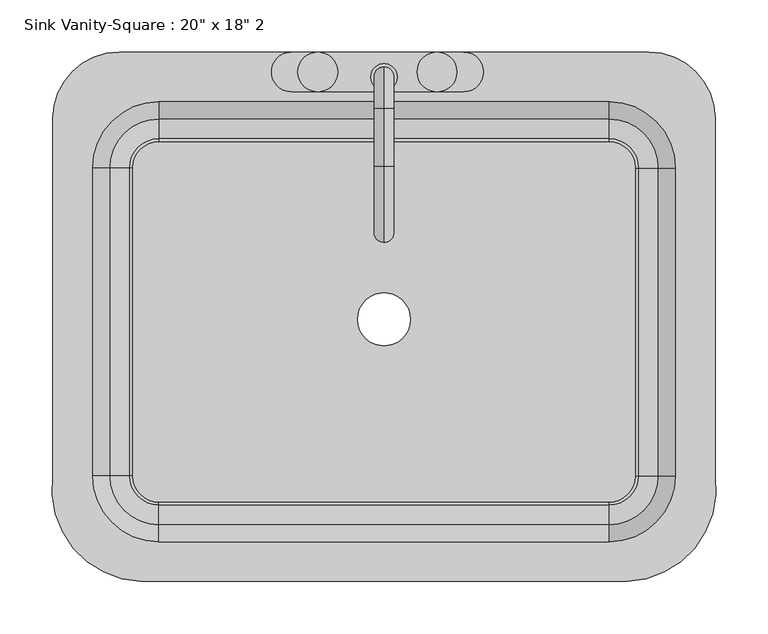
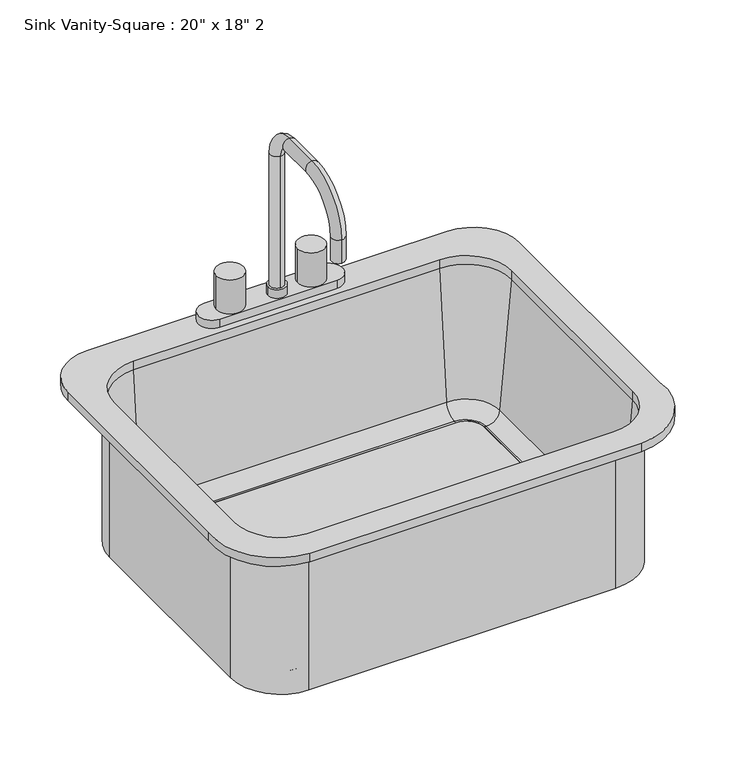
"""IFC4 building model written with IfcOpenShell, lengths in millimetres: flow terminal geometry."""

from ifc_helpers import new_model, si_unit, point, frame, frame_2d, origin, place, context, project, spatial, polyline, circle_curve, ellipse_curve, trimmed, segment, composite_curve, outline, extrude, source, transform, mapped, element, save
from ifc_brep_helpers import plane_surface, cylinder_surface, revolved_surface, advanced_brep


def flow_terminal_a8b8a3cc(model_context):
    return source(origin(), model_context, "Body", "SolidModel", [
        advanced_brep(
        [(-217.4606923, -302.4545989, 800.1), (248.8391735, -302.4545989, 800.1), (333.1892406, -200.8545989, 800.1), (333.1892406, 142.0454011, 800.1), (269.6892406, 205.5454011, 800.1), (-238.3107593, 205.5454011, 800.1), (-301.8107593, 142.0454011, 800.1), (-301.8107593, -200.8545982, 800.1), (231.5892406, 157.9204011, 800.1), (295.0892406, 94.4204011, 800.1), (295.0892406, -200.8545989, 800.1), (231.5892406, -264.3545989, 800.1), (-200.2107594, -264.3545989, 800.1), (-263.7107594, -200.8545989, 800.1), (-263.7107594, 94.4204011, 800.1), (-200.2107594, 157.9204011, 800.1), (-217.4606923, -302.4545989, 787.4), (-301.8107593, -200.8545982, 787.4), (-301.8107593, 142.0454011, 787.4), (-238.3107593, 205.5454011, 787.4), (269.6892406, 205.5454011, 787.4), (333.1892406, 142.0454011, 787.4), (333.1892406, -200.8545989, 787.4), (248.8391735, -302.4545989, 787.4), (301.4392406, 94.4204011, 787.4), (231.5892406, 164.2704011, 787.4), (-200.2107594, 164.2704011, 787.4), (-270.0607594, 94.4204011, 787.4), (-270.0607594, -200.8545989, 787.4), (-200.2107594, -270.7045989, 787.4), (231.5892406, -270.7045989, 787.4), (301.4392406, -200.8545989, 787.4), (231.5892406, 157.9204011, 787.4), (295.0892406, 94.4204011, 787.4), (295.0892406, -200.8545989, 787.4), (231.5892406, -264.3545989, 787.4), (-200.2107594, -264.3545989, 787.4), (-263.7107594, -200.8545989, 787.4), (-263.7107594, 94.4204011, 787.4), (-200.2107594, 157.9204011, 787.4), (301.4392406, 94.4204011, 571.5), (231.5892406, 164.2704011, 571.5), (256.9892406, 94.4204011, 571.5), (231.5892406, 119.8204011, 571.5), (256.9892406, 94.4204011, 581.025), (231.5892406, 119.8204011, 581.025), (259.5776588, 94.4204011, 581.025), (231.5892406, 122.4088193, 581.025), (278.5551678, 94.4204011, 598.4146831), (231.5892406, 141.3863283, 598.4146831), (301.4392406, -200.8545989, 571.5), (256.9892406, -200.8545989, 571.5), (256.9892406, -200.8545989, 581.025), (259.5776588, -200.8545989, 581.025), (278.5551678, -200.8545989, 598.4146831), (231.5892406, -270.7045989, 571.5), (231.5892406, -226.2545989, 571.5), (231.5892406, -226.2545989, 581.025), (231.5892406, -228.8430171, 581.025), (231.5892406, -247.8205261, 598.4146831), (-200.2107594, -270.7045989, 571.5), (-200.2107594, -226.2545989, 571.5), (-200.2107594, -226.2545989, 581.025), (-200.2107594, -228.8430171, 581.025), (-200.2107594, -247.8205261, 598.4146831), (-270.0607594, -200.8545989, 571.5), (-225.6107594, -200.8545989, 571.5), (-225.6107594, -200.8545989, 581.025), (-228.1991776, -200.8545989, 581.025), (-247.1766866, -200.8545989, 598.4146831), (-270.0607594, 94.4204011, 571.5), (-225.6107594, 94.4204011, 571.5), (-225.6107594, 94.4204011, 581.025), (-228.1991776, 94.4204011, 581.025), (-247.1766866, 94.4204011, 598.4146831), (-200.2107594, 164.2704011, 571.5), (-200.2107594, 119.8204011, 571.5), (-200.2107594, 119.8204011, 581.025), (-200.2107594, 122.4088193, 581.025), (-200.2107594, 141.3863283, 598.4146831)],
        [
            (0, 1),
            (1, 2, circle_curve(frame((245.0319557, -213.4793432, 800.1), z_axis=(0.0, 0.0, 1.0), x_axis=(1.0, 0.0, 0.0)), 89.0566732)),
            (2, 3),
            (3, 4, circle_curve(frame((269.6892406, 142.0454011, 800.1), z_axis=(0.0, 0.0, 1.0), x_axis=(1.0, 0.0, 0.0)), 63.5)),
            (4, 5),
            (5, 6, circle_curve(frame((-238.3107593, 142.0454011, 800.1), z_axis=(0.0, 0.0, 1.0), x_axis=(1.0, 0.0, 0.0)), 63.5)),
            (6, 7),
            (7, 0, circle_curve(frame((-213.6534746, -213.4793432, 800.1), z_axis=(0.0, 0.0, 1.0), x_axis=(1.0, 0.0, 0.0)), 89.0566732)),
            (8, 9, circle_curve(frame((231.5892406, 94.4204011, 800.1), z_axis=(0.0, 0.0, -1.0), x_axis=(1.0, 0.0, 0.0)), 63.5)),
            (9, 10),
            (10, 11, circle_curve(frame((231.5892406, -200.8545989, 800.1), z_axis=(0.0, 0.0, -1.0), x_axis=(1.0, 0.0, 0.0)), 63.5)),
            (11, 12),
            (12, 13, circle_curve(frame((-200.2107594, -200.8545989, 800.1), z_axis=(0.0, 0.0, -1.0), x_axis=(1.0, 0.0, 0.0)), 63.5)),
            (13, 14),
            (14, 15, circle_curve(frame((-200.2107594, 94.4204011, 800.1), z_axis=(0.0, 0.0, -1.0), x_axis=(1.0, 0.0, 0.0)), 63.5)),
            (15, 8),
            (16, 17, circle_curve(frame((-213.6534746, -213.4793432, 787.4), z_axis=(0.0, 0.0, -1.0), x_axis=(1.0, 0.0, 0.0)), 89.0566732)),
            (17, 18),
            (18, 19, circle_curve(frame((-238.3107593, 142.0454011, 787.4), z_axis=(0.0, 0.0, -1.0), x_axis=(1.0, 0.0, 0.0)), 63.5)),
            (19, 20),
            (20, 21, circle_curve(frame((269.6892406, 142.0454011, 787.4), z_axis=(0.0, 0.0, -1.0), x_axis=(1.0, 0.0, 0.0)), 63.5)),
            (21, 22),
            (22, 23, circle_curve(frame((245.0319557, -213.4793432, 787.4), z_axis=(0.0, 0.0, -1.0), x_axis=(1.0, 0.0, 0.0)), 89.0566732)),
            (23, 16),
            (24, 25, circle_curve(frame((231.5892406, 94.4204011, 787.4), z_axis=(0.0, 0.0, 1.0), x_axis=(0.0, 1.0, 0.0)), 69.85)),
            (25, 26),
            (26, 27, circle_curve(frame((-200.2107594, 94.4204011, 787.4), z_axis=(0.0, 0.0, 1.0), x_axis=(-1.0, 0.0, 0.0)), 69.85)),
            (27, 28),
            (28, 29, circle_curve(frame((-200.2107594, -200.8545989, 787.4), z_axis=(0.0, 0.0, 1.0), x_axis=(0.0, -1.0, 0.0)), 69.85)),
            (29, 30),
            (30, 31, circle_curve(frame((231.5892406, -200.8545989, 787.4), z_axis=(0.0, 0.0, 1.0), x_axis=(1.0, 0.0, 0.0)), 69.85)),
            (31, 24),
            (0, 16),
            (23, 1),
            (22, 2),
            (21, 3),
            (20, 4),
            (19, 5),
            (18, 6),
            (17, 7),
            (8, 32),
            (32, 33, circle_curve(frame((231.5892406, 94.4204011, 787.4), z_axis=(0.0, 0.0, -1.0), x_axis=(1.0, 0.0, 0.0)), 63.5)),
            (33, 9),
            (33, 34),
            (34, 10),
            (34, 35, circle_curve(frame((231.5892406, -200.8545989, 787.4), z_axis=(0.0, 0.0, -1.0), x_axis=(1.0, 0.0, 0.0)), 63.5)),
            (35, 11),
            (35, 36),
            (36, 12),
            (36, 37, circle_curve(frame((-200.2107594, -200.8545989, 787.4), z_axis=(0.0, 0.0, -1.0), x_axis=(1.0, 0.0, 0.0)), 63.5)),
            (37, 13),
            (37, 38),
            (38, 14),
            (38, 39, circle_curve(frame((-200.2107594, 94.4204011, 787.4), z_axis=(0.0, 0.0, -1.0), x_axis=(1.0, 0.0, 0.0)), 63.5)),
            (39, 15),
            (39, 32),
            (40, 41, circle_curve(frame((231.5892406, 94.4204011, 571.5), z_axis=(0.0, 0.0, 1.0), x_axis=(0.0, 1.0, 0.0)), 69.85)),
            (41, 25),
            (24, 40),
            (40, 42),
            (42, 43, circle_curve(frame((231.5892406, 94.4204011, 571.5), z_axis=(0.0, 0.0, 1.0), x_axis=(0.0, 1.0, 0.0)), 25.4)),
            (43, 41),
            (42, 44),
            (44, 45, circle_curve(frame((231.5892406, 94.4204011, 581.025), z_axis=(0.0, 0.0, 1.0), x_axis=(0.0, 1.0, 0.0)), 25.4)),
            (45, 43),
            (44, 46),
            (46, 47, circle_curve(frame((231.5892406, 94.4204011, 581.025), z_axis=(0.0, 0.0, 1.0), x_axis=(0.0, 1.0, 0.0)), 27.9884182)),
            (47, 45),
            (46, 48, circle_curve(frame((259.5776588, 94.4204011, 600.075), z_axis=(0.0, -1.0, 0.0), x_axis=(1.0, 0.0, 0.0)), 19.05)),
            (48, 49, circle_curve(frame((231.5892406, 94.4204011, 598.4146831), z_axis=(0.0, 0.0, 1.0), x_axis=(0.0, 1.0, 0.0)), 46.9659272)),
            (49, 47, circle_curve(frame((231.5892406, 122.4088193, 600.075), z_axis=(-1.0, 0.0, 0.0), x_axis=(0.0, 1.0, 0.0)), 19.05)),
            (48, 33),
            (32, 49),
            (31, 50),
            (50, 40),
            (50, 51),
            (51, 42),
            (51, 52),
            (52, 44),
            (52, 53),
            (53, 46),
            (53, 54, circle_curve(frame((259.5776588, -200.8545989, 600.075), z_axis=(0.0, -1.0, 0.0), x_axis=(1.0, 0.0, 0.0)), 19.05)),
            (54, 48),
            (54, 34),
            (30, 55),
            (55, 50, circle_curve(frame((231.5892406, -200.8545989, 571.5), z_axis=(0.0, 0.0, 1.0), x_axis=(1.0, 0.0, 0.0)), 69.85)),
            (55, 56),
            (56, 51, circle_curve(frame((231.5892406, -200.8545989, 571.5), z_axis=(0.0, 0.0, 1.0), x_axis=(1.0, 0.0, 0.0)), 25.4)),
            (56, 57),
            (57, 52, circle_curve(frame((231.5892406, -200.8545989, 581.025), z_axis=(0.0, 0.0, 1.0), x_axis=(1.0, 0.0, 0.0)), 25.4)),
            (57, 58),
            (58, 53, circle_curve(frame((231.5892406, -200.8545989, 581.025), z_axis=(0.0, 0.0, 1.0), x_axis=(1.0, 0.0, 0.0)), 27.9884182)),
            (58, 59, circle_curve(frame((231.5892406, -228.8430171, 600.075), z_axis=(-1.0, 0.0, 0.0), x_axis=(0.0, -1.0, 0.0)), 19.05)),
            (59, 54, circle_curve(frame((231.5892406, -200.8545989, 598.4146831), z_axis=(0.0, 0.0, 1.0), x_axis=(1.0, 0.0, 0.0)), 46.9659272)),
            (59, 35),
            (29, 60),
            (60, 55),
            (60, 61),
            (61, 56),
            (61, 62),
            (62, 57),
            (62, 63),
            (63, 58),
            (63, 64, circle_curve(frame((-200.2107594, -228.8430171, 600.075), z_axis=(-1.0, 0.0, 0.0), x_axis=(0.0, -1.0, 0.0)), 19.05)),
            (64, 59),
            (64, 36),
            (28, 65),
            (65, 60, circle_curve(frame((-200.2107594, -200.8545989, 571.5), z_axis=(0.0, 0.0, 1.0), x_axis=(0.0, -1.0, 0.0)), 69.85)),
            (65, 66),
            (66, 61, circle_curve(frame((-200.2107594, -200.8545989, 571.5), z_axis=(0.0, 0.0, 1.0), x_axis=(0.0, -1.0, 0.0)), 25.4)),
            (66, 67),
            (67, 62, circle_curve(frame((-200.2107594, -200.8545989, 581.025), z_axis=(0.0, 0.0, 1.0), x_axis=(0.0, -1.0, 0.0)), 25.4)),
            (67, 68),
            (68, 63, circle_curve(frame((-200.2107594, -200.8545989, 581.025), z_axis=(0.0, 0.0, 1.0), x_axis=(0.0, -1.0, 0.0)), 27.9884182)),
            (68, 69, circle_curve(frame((-228.1991776, -200.8545989, 600.075), z_axis=(0.0, 1.0, 0.0), x_axis=(-1.0, 0.0, 0.0)), 19.05)),
            (69, 64, circle_curve(frame((-200.2107594, -200.8545989, 598.4146831), z_axis=(0.0, 0.0, 1.0), x_axis=(0.0, -1.0, 0.0)), 46.9659272)),
            (69, 37),
            (27, 70),
            (70, 65),
            (70, 71),
            (71, 66),
            (71, 72),
            (72, 67),
            (72, 73),
            (73, 68),
            (73, 74, circle_curve(frame((-228.1991776, 94.4204011, 600.075), z_axis=(0.0, 1.0, 0.0), x_axis=(-1.0, 0.0, 0.0)), 19.05)),
            (74, 69),
            (74, 38),
            (26, 75),
            (75, 70, circle_curve(frame((-200.2107594, 94.4204011, 571.5), z_axis=(0.0, 0.0, 1.0), x_axis=(-1.0, 0.0, 0.0)), 69.85)),
            (75, 76),
            (76, 71, circle_curve(frame((-200.2107594, 94.4204011, 571.5), z_axis=(0.0, 0.0, 1.0), x_axis=(-1.0, 0.0, 0.0)), 25.4)),
            (76, 77),
            (77, 72, circle_curve(frame((-200.2107594, 94.4204011, 581.025), z_axis=(0.0, 0.0, 1.0), x_axis=(-1.0, 0.0, 0.0)), 25.4)),
            (77, 78),
            (78, 73, circle_curve(frame((-200.2107594, 94.4204011, 581.025), z_axis=(0.0, 0.0, 1.0), x_axis=(-1.0, 0.0, 0.0)), 27.9884182)),
            (78, 79, circle_curve(frame((-200.2107594, 122.4088193, 600.075), z_axis=(1.0, 0.0, 0.0), x_axis=(0.0, 1.0, 0.0)), 19.05)),
            (79, 74, circle_curve(frame((-200.2107594, 94.4204011, 598.4146831), z_axis=(0.0, 0.0, 1.0), x_axis=(-1.0, 0.0, 0.0)), 46.9659272)),
            (79, 39),
            (41, 75),
            (43, 76),
            (45, 77),
            (47, 78),
            (49, 79),
        ],
        [
            plane_surface(frame((248.8391735, -302.4545989, 800.1), z_axis=(0.0, 0.0, 1.0), x_axis=(1.0, 0.0, 0.0))),
            plane_surface(frame((248.8391735, -302.4545989, 787.4), z_axis=(0.0, 0.0, -1.0), x_axis=(-1.0, 0.0, 0.0))),
            plane_surface(frame((-217.4606923, -302.4545989, 800.1), z_axis=(0.0, -1.0, 0.0), x_axis=(0.0, 0.0, -1.0))),
            cylinder_surface(frame((245.0319557, -213.4793432, 787.4), z_axis=(0.0, 0.0, 1.0), x_axis=(1.0, 0.0, 0.0)), 89.0566732),
            plane_surface(frame((333.1892406, -200.8545989, 800.1), z_axis=(1.0, 0.0, 0.0), x_axis=(0.0, 0.0, -1.0))),
            cylinder_surface(frame((269.6892406, 142.0454011, 787.4), z_axis=(0.0, 0.0, 1.0), x_axis=(1.0, 0.0, 0.0)), 63.5),
            plane_surface(frame((269.6892406, 205.5454011, 800.1), z_axis=(0.0, 1.0, 0.0), x_axis=(0.0, 0.0, -1.0))),
            cylinder_surface(frame((-238.3107593, 142.0454011, 787.4), z_axis=(0.0, 0.0, 1.0), x_axis=(1.0, 0.0, 0.0)), 63.5),
            plane_surface(frame((-301.8107593, 142.0454011, 800.1), z_axis=(-1.0, 0.0, 0.0), x_axis=(0.0, 0.0, -1.0))),
            cylinder_surface(frame((-213.6534746, -213.4793432, 787.4), z_axis=(0.0, 0.0, 1.0), x_axis=(1.0, 0.0, 0.0)), 89.0566732),
            revolved_surface(polyline([(295.08924060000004, 94.4204011, 787.4), (295.08924060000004, 94.4204011, 800.1)]), (231.5892406, 94.4204011, 0.0), (0.0, 0.0, -1.0)),
            plane_surface(frame((295.0892406, 94.4204011, 800.1), z_axis=(-1.0, 0.0, 0.0), x_axis=(0.0, 0.0, -1.0))),
            revolved_surface(polyline([(295.08924060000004, -200.8545989, 787.4), (295.08924060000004, -200.8545989, 800.1)]), (231.5892406, -200.8545989, 0.0), (0.0, 0.0, -1.0)),
            plane_surface(frame((231.5892406, -264.3545989, 800.1), z_axis=(0.0, 1.0, 0.0), x_axis=(0.0, 0.0, -1.0))),
            revolved_surface(polyline([(-136.7107594, -200.8545989, 787.4), (-136.7107594, -200.8545989, 800.1)]), (-200.2107594, -200.8545989, 0.0), (0.0, 0.0, -1.0)),
            plane_surface(frame((-263.7107594, -200.8545989, 800.1), z_axis=(1.0, 0.0, 0.0), x_axis=(0.0, 0.0, -1.0))),
            revolved_surface(polyline([(-136.7107594, 94.4204011, 787.4), (-136.7107594, 94.4204011, 800.1)]), (-200.2107594, 94.4204011, 0.0), (0.0, 0.0, -1.0)),
            plane_surface(frame((-200.2107594, 157.9204011, 800.1), z_axis=(0.0, -1.0, 0.0), x_axis=(0.0, 0.0, -1.0))),
            cylinder_surface(frame((231.5892406, 94.4204011, 0.0), z_axis=(0.0, 0.0, -1.0), x_axis=(0.0, 1.0, 0.0)), 69.85),
            plane_surface(frame((231.5892406, 94.4204011, 571.5), z_axis=(0.0, 0.0, -1.0), x_axis=(0.0, 1.0, 0.0))),
            revolved_surface(polyline([(231.5892406, 119.8204011, 571.5), (231.5892406, 119.8204011, 581.025)]), (231.5892406, 94.4204011, 0.0), (0.0, 0.0, -1.0)),
            plane_surface(frame((231.5892406, 94.4204011, 581.025), z_axis=(0.0, 0.0, 1.0), x_axis=(0.0, 1.0, 0.0))),
            revolved_surface(trimmed(ellipse_curve(frame((231.5892406, 122.4088193, 600.075), z_axis=(1.0, 0.0, 0.0), x_axis=(0.0, 1.0, 0.0)), 19.05, 19.05), [point((231.5892406, 122.4088193, 581.025))], [point((231.5892406, 141.3863283, 598.4146831))], True, "CARTESIAN"), (231.5892406, 94.4204011, 0.0), (0.0, 0.0, -1.0)),
            revolved_surface(polyline([(231.5892406, 141.3863283, 598.4146831), (231.5892406, 157.9204011, 787.4)]), (231.5892406, 94.4204011, 0.0), (0.0, 0.0, -1.0)),
            plane_surface(frame((301.4392406, 94.4204011, 787.4), z_axis=(1.0, 0.0, 0.0), x_axis=(0.0, -1.0, 0.0))),
            plane_surface(frame((301.4392406, 94.4204011, 571.5), z_axis=(0.0, 0.0, -1.0), x_axis=(0.0, -1.0, 0.0))),
            plane_surface(frame((256.9892406, 94.4204011, 571.5), z_axis=(-1.0, 0.0, 0.0), x_axis=(0.0, -1.0, 0.0))),
            plane_surface(frame((256.9892406, 94.4204011, 581.025), z_axis=(0.0, 0.0, 1.0), x_axis=(0.0, -1.0, 0.0))),
            revolved_surface(polyline([(278.6276588, -200.85459890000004, 600.075), (278.6276588, 94.4204011, 600.075)]), (259.5776588, 94.4204011, 600.075), (0.0, -1.0, 0.0)),
            plane_surface(frame((278.5551678, 94.4204011, 598.4146831), z_axis=(-0.9961946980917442, 0.0, 0.0871557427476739), x_axis=(0.0, -1.0, 0.0))),
            cylinder_surface(frame((231.5892406, -200.8545989, 0.0), z_axis=(0.0, 0.0, -1.0), x_axis=(1.0, 0.0, 0.0)), 69.85),
            plane_surface(frame((231.5892406, -200.8545989, 571.5), z_axis=(0.0, 0.0, -1.0), x_axis=(1.0, 0.0, 0.0))),
            revolved_surface(polyline([(256.9892406, -200.8545989, 571.5), (256.9892406, -200.8545989, 581.025)]), (231.5892406, -200.8545989, 0.0), (0.0, 0.0, -1.0)),
            plane_surface(frame((231.5892406, -200.8545989, 581.025), z_axis=(0.0, 0.0, 1.0), x_axis=(1.0, 0.0, 0.0))),
            revolved_surface(trimmed(ellipse_curve(frame((259.5776588, -200.8545989, 600.075), z_axis=(0.0, -1.0, 0.0), x_axis=(1.0, 0.0, 0.0)), 19.05, 19.05), [point((259.5776588, -200.8545989, 581.025))], [point((278.5551678, -200.8545989, 598.4146831))], True, "CARTESIAN"), (231.5892406, -200.8545989, 0.0), (0.0, 0.0, -1.0)),
            revolved_surface(polyline([(278.5551678, -200.8545989, 598.4146831), (295.0892406, -200.8545989, 787.4)]), (231.5892406, -200.8545989, 0.0), (0.0, 0.0, -1.0)),
            plane_surface(frame((231.5892406, -270.7045989, 787.4), z_axis=(0.0, -1.0, 0.0), x_axis=(-1.0, 0.0, 0.0))),
            plane_surface(frame((231.5892406, -270.7045989, 571.5), z_axis=(0.0, 0.0, -1.0), x_axis=(-1.0, 0.0, 0.0))),
            plane_surface(frame((231.5892406, -226.2545989, 571.5), z_axis=(0.0, 1.0, 0.0), x_axis=(-1.0, 0.0, 0.0))),
            plane_surface(frame((231.5892406, -226.2545989, 581.025), z_axis=(0.0, 0.0, 1.0), x_axis=(-1.0, 0.0, 0.0))),
            revolved_surface(polyline([(-200.2107594, -247.8930171, 600.075), (231.5892406, -247.8930171, 600.075)]), (231.5892406, -228.8430171, 600.075), (-1.0, 0.0, 0.0)),
            plane_surface(frame((231.5892406, -247.8205261, 598.4146831), z_axis=(0.0, 0.9961946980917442, 0.0871557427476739), x_axis=(-1.0, 0.0, 0.0))),
            cylinder_surface(frame((-200.2107594, -200.8545989, 0.0), z_axis=(0.0, 0.0, -1.0), x_axis=(0.0, -1.0, 0.0)), 69.85),
            plane_surface(frame((-200.2107594, -200.8545989, 571.5), z_axis=(0.0, 0.0, -1.0), x_axis=(0.0, -1.0, 0.0))),
            revolved_surface(polyline([(-200.2107594, -226.25459890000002, 571.5), (-200.2107594, -226.25459890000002, 581.025)]), (-200.2107594, -200.8545989, 0.0), (0.0, 0.0, -1.0)),
            plane_surface(frame((-200.2107594, -200.8545989, 581.025), z_axis=(0.0, 0.0, 1.0), x_axis=(0.0, -1.0, 0.0))),
            revolved_surface(trimmed(ellipse_curve(frame((-200.2107594, -228.8430171, 600.075), z_axis=(-1.0, 0.0, 0.0), x_axis=(0.0, -1.0, 0.0)), 19.05, 19.05), [point((-200.2107594, -228.8430171, 581.025))], [point((-200.2107594, -247.8205261, 598.4146831))], True, "CARTESIAN"), (-200.2107594, -200.8545989, 0.0), (0.0, 0.0, -1.0)),
            revolved_surface(polyline([(-200.2107594, -247.8205261, 598.4146831), (-200.2107594, -264.3545989, 787.4)]), (-200.2107594, -200.8545989, 0.0), (0.0, 0.0, -1.0)),
            plane_surface(frame((-270.0607594, -200.8545989, 787.4), z_axis=(-1.0, 0.0, 0.0), x_axis=(0.0, 1.0, 0.0))),
            plane_surface(frame((-270.0607594, -200.8545989, 571.5), z_axis=(0.0, 0.0, -1.0), x_axis=(0.0, 1.0, 0.0))),
            plane_surface(frame((-225.6107594, -200.8545989, 571.5), z_axis=(1.0, 0.0, 0.0), x_axis=(0.0, 1.0, 0.0))),
            plane_surface(frame((-225.6107594, -200.8545989, 581.025), z_axis=(0.0, 0.0, 1.0), x_axis=(0.0, 1.0, 0.0))),
            revolved_surface(polyline([(-247.24917760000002, 94.42040110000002, 600.075), (-247.24917760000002, -200.8545989, 600.075)]), (-228.1991776, -200.8545989, 600.075), (0.0, 1.0, 0.0)),
            plane_surface(frame((-247.1766866, -200.8545989, 598.4146831), z_axis=(0.9961946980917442, 0.0, 0.0871557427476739), x_axis=(0.0, 1.0, 0.0))),
            cylinder_surface(frame((-200.2107594, 94.4204011, 0.0), z_axis=(0.0, 0.0, -1.0), x_axis=(-1.0, 0.0, 0.0)), 69.85),
            plane_surface(frame((-200.2107594, 94.4204011, 571.5), z_axis=(0.0, 0.0, -1.0), x_axis=(-1.0, 0.0, 0.0))),
            revolved_surface(polyline([(-225.6107594, 94.4204011, 571.5), (-225.6107594, 94.4204011, 581.025)]), (-200.2107594, 94.4204011, 0.0), (0.0, 0.0, -1.0)),
            plane_surface(frame((-200.2107594, 94.4204011, 581.025), z_axis=(0.0, 0.0, 1.0), x_axis=(-1.0, 0.0, 0.0))),
            revolved_surface(trimmed(ellipse_curve(frame((-228.1991776, 94.4204011, 600.075), z_axis=(0.0, 1.0, 0.0), x_axis=(-1.0, 0.0, 0.0)), 19.05, 19.05), [point((-228.1991776, 94.4204011, 581.025))], [point((-247.1766866, 94.4204011, 598.4146831))], True, "CARTESIAN"), (-200.2107594, 94.4204011, 0.0), (0.0, 0.0, -1.0)),
            revolved_surface(polyline([(-247.1766866, 94.4204011, 598.4146831), (-263.7107594, 94.4204011, 787.4)]), (-200.2107594, 94.4204011, 0.0), (0.0, 0.0, -1.0)),
            plane_surface(frame((-200.2107594, 164.2704011, 787.4), z_axis=(0.0, 1.0, 0.0), x_axis=(1.0, 0.0, 0.0))),
            plane_surface(frame((-200.2107594, 164.2704011, 571.5), z_axis=(0.0, 0.0, -1.0), x_axis=(1.0, 0.0, 0.0))),
            plane_surface(frame((-200.2107594, 119.8204011, 571.5), z_axis=(0.0, -1.0, 0.0), x_axis=(1.0, 0.0, 0.0))),
            plane_surface(frame((-200.2107594, 119.8204011, 581.025), z_axis=(0.0, 0.0, 1.0), x_axis=(1.0, 0.0, 0.0))),
            revolved_surface(polyline([(231.5892406, 141.45881930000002, 600.075), (-200.2107594, 141.45881930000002, 600.075)]), (-200.2107594, 122.4088193, 600.075), (1.0, 0.0, 0.0)),
            plane_surface(frame((-200.2107594, 141.3863283, 598.4146831), z_axis=(0.0, -0.9961946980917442, 0.0871557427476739), x_axis=(1.0, 0.0, 0.0))),
        ],
        [
            (0, [[1, 2, 3, 4, 5, 6, 7, 8], [9, 10, 11, 12, 13, 14, 15, 16]]),
            (1, [[17, 18, 19, 20, 21, 22, 23, 24], [25, 26, 27, 28, 29, 30, 31, 32]]),
            (2, [[-1, 33, -24, 34]]),
            (3, [[-2, -34, -23, 35]]),
            (4, [[-3, -35, -22, 36]]),
            (5, [[-4, -36, -21, 37]]),
            (6, [[-5, -37, -20, 38]]),
            (7, [[-6, -38, -19, 39]]),
            (8, [[-7, -39, -18, 40]]),
            (9, [[-8, -40, -17, -33]]),
            (10, [[-9, 41, 42, 43]]),
            (11, [[-10, -43, 44, 45]]),
            (12, [[-11, -45, 46, 47]]),
            (13, [[-12, -47, 48, 49]]),
            (14, [[-13, -49, 50, 51]]),
            (15, [[-14, -51, 52, 53]]),
            (16, [[-15, -53, 54, 55]]),
            (17, [[-16, -55, 56, -41]]),
            (18, [[57, 58, -25, 59]]),
            (19, [[-57, 60, 61, 62]]),
            (20, [[-61, 63, 64, 65]]),
            (21, [[-64, 66, 67, 68]]),
            (22, [[-67, 69, 70, 71]]),
            (23, [[-70, 72, -42, 73]]),
            (24, [[-59, -32, 74, 75]]),
            (25, [[-60, -75, 76, 77]]),
            (26, [[-63, -77, 78, 79]]),
            (27, [[-66, -79, 80, 81]]),
            (28, [[-69, -81, 82, 83]]),
            (29, [[-72, -83, 84, -44]]),
            (30, [[-74, -31, 85, 86]]),
            (31, [[-76, -86, 87, 88]]),
            (32, [[-78, -88, 89, 90]]),
            (33, [[-80, -90, 91, 92]]),
            (34, [[-82, -92, 93, 94]]),
            (35, [[-84, -94, 95, -46]]),
            (36, [[-85, -30, 96, 97]]),
            (37, [[-87, -97, 98, 99]]),
            (38, [[-89, -99, 100, 101]]),
            (39, [[-91, -101, 102, 103]]),
            (40, [[-93, -103, 104, 105]]),
            (41, [[-95, -105, 106, -48]]),
            (42, [[-96, -29, 107, 108]]),
            (43, [[-98, -108, 109, 110]]),
            (44, [[-100, -110, 111, 112]]),
            (45, [[-102, -112, 113, 114]]),
            (46, [[-104, -114, 115, 116]]),
            (47, [[-106, -116, 117, -50]]),
            (48, [[-107, -28, 118, 119]]),
            (49, [[-109, -119, 120, 121]]),
            (50, [[-111, -121, 122, 123]]),
            (51, [[-113, -123, 124, 125]]),
            (52, [[-115, -125, 126, 127]]),
            (53, [[-117, -127, 128, -52]]),
            (54, [[-118, -27, 129, 130]]),
            (55, [[-120, -130, 131, 132]]),
            (56, [[-122, -132, 133, 134]]),
            (57, [[-124, -134, 135, 136]]),
            (58, [[-126, -136, 137, 138]]),
            (59, [[-128, -138, 139, -54]]),
            (60, [[-58, 140, -129, -26]]),
            (61, [[-62, 141, -131, -140]]),
            (62, [[-65, 142, -133, -141]]),
            (63, [[-68, 143, -135, -142]]),
            (64, [[-71, 144, -137, -143]]),
            (65, [[-73, -56, -139, -144]]),
        ],
    ),
        advanced_brep(
        [(91.8892406, 205.5454011, 800.1), (91.8892406, 167.4454011, 800.1), (-73.2107594, 167.4454011, 800.1), (-73.2107594, 205.5454011, 800.1), (15.6892406, 191.2579011, 1020.7625), (15.6892406, 172.2079011, 1020.7625), (15.6892406, 172.2079011, 825.5), (15.6892406, 191.2579011, 825.5), (15.6892406, 151.5704011, 1060.45), (15.6892406, 151.5704011, 1041.4), (15.6892406, 96.0079011, 1060.45), (15.6892406, 96.0079011, 1041.4), (15.6892406, 22.9829011, 987.425), (15.6892406, 42.0329011, 987.425), (15.6892406, 22.9829011, 952.5), (15.6892406, 42.0329011, 952.5), (2.9892406, 181.7329011, 825.5), (28.3892406, 181.7329011, 825.5), (2.9892406, 181.7329011, 812.8), (28.3892406, 181.7329011, 812.8), (91.8892406, 205.5454011, 812.8), (-73.2107594, 205.5454011, 812.8), (-73.2107594, 167.4454011, 812.8), (91.8892406, 167.4454011, 812.8)],
        [
            (0, 1, circle_curve(frame((91.8892406, 186.4954011, 800.1), z_axis=(0.0, 0.0, -1.0), x_axis=(1.0, 0.0, 0.0)), 19.05)),
            (1, 2),
            (2, 3, circle_curve(frame((-73.2107594, 186.4954011, 800.1), z_axis=(0.0, 0.0, -1.0), x_axis=(1.0, 0.0, 0.0)), 19.05)),
            (3, 0),
            (4, 5, circle_curve(frame((15.6892406, 181.7329011, 1020.7625), z_axis=(0.0, 0.0, -1.0), x_axis=(0.0, -1.0, 0.0)), 9.525)),
            (5, 6),
            (6, 7, circle_curve(frame((15.6892406, 181.7329011, 825.5), z_axis=(0.0, 0.0, 1.0), x_axis=(0.0, -1.0, 0.0)), 9.525)),
            (7, 4),
            (5, 4, circle_curve(frame((15.6892406, 181.7329011, 1020.7625), z_axis=(0.0, 0.0, -1.0), x_axis=(0.0, -1.0, 0.0)), 9.525)),
            (7, 6, circle_curve(frame((15.6892406, 181.7329011, 825.5), z_axis=(0.0, 0.0, 1.0), x_axis=(0.0, -1.0, 0.0)), 9.525)),
            (4, 8, circle_curve(frame((15.6892406, 151.5704011, 1020.7625), z_axis=(1.0, 0.0, 0.0), x_axis=(0.0, 1.0, 0.0)), 39.6875)),
            (8, 9, circle_curve(frame((15.6892406, 151.5704011, 1050.925), z_axis=(0.0, 1.0, 0.0), x_axis=(0.0, 0.0, -1.0)), 9.525)),
            (9, 5, circle_curve(frame((15.6892406, 151.5704011, 1020.7625), z_axis=(-1.0, 0.0, 0.0), x_axis=(0.0, 1.0, 0.0)), 20.6375)),
            (9, 8, circle_curve(frame((15.6892406, 151.5704011, 1050.925), z_axis=(0.0, 1.0, 0.0), x_axis=(0.0, 0.0, -1.0)), 9.525)),
            (8, 10),
            (10, 11, circle_curve(frame((15.6892406, 96.0079011, 1050.925), z_axis=(0.0, 1.0, 0.0), x_axis=(0.0, 0.0, -1.0)), 9.525)),
            (11, 9),
            (11, 10, circle_curve(frame((15.6892406, 96.0079011, 1050.925), z_axis=(0.0, 1.0, 0.0), x_axis=(0.0, 0.0, -1.0)), 9.525)),
            (10, 12, circle_curve(frame((15.6892406, 96.0079011, 987.425), z_axis=(1.0, 0.0, 0.0), x_axis=(0.0, 0.0, 1.0)), 73.025)),
            (12, 13, circle_curve(frame((15.6892406, 32.5079011, 987.425), z_axis=(0.0, 0.0, 1.0), x_axis=(0.0, 1.0, 0.0)), 9.525)),
            (13, 11, circle_curve(frame((15.6892406, 96.0079011, 987.425), z_axis=(-1.0, 0.0, 0.0), x_axis=(0.0, 0.0, 1.0)), 53.975)),
            (13, 12, circle_curve(frame((15.6892406, 32.5079011, 987.425), z_axis=(0.0, 0.0, 1.0), x_axis=(0.0, 1.0, 0.0)), 9.525)),
            (14, 15, circle_curve(frame((15.6892406, 32.5079011, 952.5), z_axis=(0.0, 0.0, -1.0), x_axis=(0.0, 1.0, 0.0)), 9.525)),
            (15, 14, circle_curve(frame((15.6892406, 32.5079011, 952.5), z_axis=(0.0, 0.0, -1.0), x_axis=(0.0, 1.0, 0.0)), 9.525)),
            (12, 14),
            (15, 13),
            (16, 17, circle_curve(frame((15.6892406, 181.7329011, 825.5), z_axis=(0.0, 0.0, 1.0), x_axis=(1.0, 0.0, 0.0)), 12.7)),
            (17, 16, circle_curve(frame((15.6892406, 181.7329011, 825.5), z_axis=(0.0, 0.0, 1.0), x_axis=(1.0, 0.0, 0.0)), 12.7)),
            (16, 18),
            (18, 19, circle_curve(frame((15.6892406, 181.7329011, 812.8), z_axis=(0.0, 0.0, 1.0), x_axis=(1.0, 0.0, 0.0)), 12.7)),
            (19, 17),
            (19, 18, circle_curve(frame((15.6892406, 181.7329011, 812.8), z_axis=(0.0, 0.0, 1.0), x_axis=(1.0, 0.0, 0.0)), 12.7)),
            (20, 21),
            (21, 22, circle_curve(frame((-73.2107594, 186.4954011, 812.8), z_axis=(0.0, 0.0, 1.0), x_axis=(1.0, 0.0, 0.0)), 19.05)),
            (22, 23),
            (23, 20, circle_curve(frame((91.8892406, 186.4954011, 812.8), z_axis=(0.0, 0.0, 1.0), x_axis=(1.0, 0.0, 0.0)), 19.05)),
            (20, 0),
            (3, 21),
            (2, 22),
            (1, 23),
        ],
        [
            plane_surface(frame((15.6892406, 172.2079011, 800.1), z_axis=(0.0, 0.0, -1.0), x_axis=(1.0, 0.0, 0.0))),
            cylinder_surface(frame((15.6892406, 181.7329011, 800.1), z_axis=(0.0, 0.0, -1.0), x_axis=(0.0, -1.0, 0.0)), 9.525),
            revolved_surface(trimmed(ellipse_curve(frame((15.6892406, 181.7329011, 1020.7625), z_axis=(0.0, 0.0, -1.0), x_axis=(0.0, -1.0, 0.0)), 9.525, 9.525), [point((15.6892406, 191.2579011, 1020.7625))], [point((15.6892406, 172.2079011, 1020.7625))], True, "CARTESIAN"), (15.6892406, 151.5704011, 1020.7625), (1.0, 0.0, 0.0)),
            revolved_surface(trimmed(ellipse_curve(frame((15.6892406, 181.7329011, 1020.7625), z_axis=(0.0, 0.0, -1.0), x_axis=(0.0, -1.0, 0.0)), 9.525, 9.525), [point((15.6892406, 172.2079011, 1020.7625))], [point((15.6892406, 191.2579011, 1020.7625))], True, "CARTESIAN"), (15.6892406, 151.5704011, 1020.7625), (1.0, 0.0, 0.0)),
            cylinder_surface(frame((15.6892406, 151.5704011, 1050.925), z_axis=(0.0, 1.0, 0.0), x_axis=(0.0, 0.0, -1.0)), 9.525),
            revolved_surface(trimmed(ellipse_curve(frame((15.6892406, 96.0079011, 1050.925), z_axis=(0.0, 1.0, 0.0), x_axis=(0.0, 0.0, -1.0)), 9.525, 9.525), [point((15.6892406, 96.0079011, 1060.45))], [point((15.6892406, 96.0079011, 1041.4))], True, "CARTESIAN"), (15.6892406, 96.0079011, 987.425), (1.0, 0.0, 0.0)),
            revolved_surface(trimmed(ellipse_curve(frame((15.6892406, 96.0079011, 1050.925), z_axis=(0.0, 1.0, 0.0), x_axis=(0.0, 0.0, -1.0)), 9.525, 9.525), [point((15.6892406, 96.0079011, 1041.4))], [point((15.6892406, 96.0079011, 1060.45))], True, "CARTESIAN"), (15.6892406, 96.0079011, 987.425), (1.0, 0.0, 0.0)),
            plane_surface(frame((15.6892406, 22.9829011, 952.5), z_axis=(0.0, 0.0, -1.0), x_axis=(-1.0, 0.0, 0.0))),
            cylinder_surface(frame((15.6892406, 32.5079011, 987.425), z_axis=(0.0, 0.0, 1.0), x_axis=(0.0, 1.0, 0.0)), 9.525),
            plane_surface(frame((28.3892406, 181.7329011, 825.5), z_axis=(0.0, 0.0, 1.0), x_axis=(0.0, 1.0, 0.0))),
            cylinder_surface(frame((15.6892406, 181.7329011, 812.8), z_axis=(0.0, 0.0, 1.0), x_axis=(1.0, 0.0, 0.0)), 12.7),
            plane_surface(frame((-73.2107594, 205.5454011, 812.8), z_axis=(0.0, 0.0, 1.0), x_axis=(-1.0, 0.0, 0.0))),
            plane_surface(frame((91.8892406, 205.5454011, 812.8), z_axis=(0.0, 1.0, 0.0), x_axis=(0.0, 0.0, -1.0))),
            cylinder_surface(frame((-73.2107594, 186.4954011, 800.1), z_axis=(0.0, 0.0, 1.0), x_axis=(1.0, 0.0, 0.0)), 19.05),
            plane_surface(frame((-73.2107594, 167.4454011, 812.8), z_axis=(0.0, -1.0, 0.0), x_axis=(0.0, 0.0, -1.0))),
            cylinder_surface(frame((91.8892406, 186.4954011, 800.1), z_axis=(0.0, 0.0, 1.0), x_axis=(1.0, 0.0, 0.0)), 19.05),
        ],
        [
            (0, [[1, 2, 3, 4]]),
            (1, [[5, 6, 7, 8]]),
            (1, [[9, -8, 10, -6]]),
            (2, [[-5, 11, 12, 13]]),
            (3, [[-9, -13, 14, -11]]),
            (4, [[-12, 15, 16, 17]]),
            (4, [[-14, -17, 18, -15]]),
            (5, [[-16, 19, 20, 21]]),
            (6, [[-18, -21, 22, -19]]),
            (7, [[23, 24]]),
            (8, [[-20, 25, -24, 26]]),
            (8, [[-22, -26, -23, -25]]),
            (9, [[27, 28], [-7, -10]]),
            (10, [[-27, 29, 30, 31]]),
            (10, [[-28, -31, 32, -29]]),
            (11, [[33, 34, 35, 36], [-30, -32]]),
            (12, [[-33, 37, -4, 38]]),
            (13, [[-34, -38, -3, 39]]),
            (14, [[-35, -39, -2, 40]]),
            (15, [[-36, -40, -1, -37]]),
        ],
    ),
        extrude(outline(composite_curve([segment(trimmed(circle_curve(frame_2d((-47.8107594, 186.4954011)), 19.05), [point((-66.8607594, 186.4954011))], [point((-28.7607594, 186.4954011))], False, "CARTESIAN"), True, "CONTINUOUS"), segment(trimmed(circle_curve(frame_2d((-47.8107594, 186.4954011)), 19.05), [point((-28.7607594, 186.4954011))], [point((-66.8607594, 186.4954011))], False, "CARTESIAN"), True, "CONTINUOUS")], self_intersect=False)), frame((0.0, 0.0, 812.8), z_axis=(0.0, 0.0, 1.0), x_axis=(1.0, 0.0, 0.0)), (0.0, 0.0, 1.0), 50.8),
        extrude(outline(composite_curve([segment(trimmed(circle_curve(frame_2d((66.4892406, 186.4954011)), 19.05), [point((47.4392406, 186.4954011))], [point((85.5392406, 186.4954011))], False, "CARTESIAN"), True, "CONTINUOUS"), segment(trimmed(circle_curve(frame_2d((66.4892406, 186.4954011)), 19.05), [point((85.5392406, 186.4954011))], [point((47.4392406, 186.4954011))], False, "CARTESIAN"), True, "CONTINUOUS")], self_intersect=False)), frame((0.0, 0.0, 812.8), z_axis=(0.0, 0.0, 1.0), x_axis=(1.0, 0.0, 0.0)), (0.0, 0.0, 1.0), 50.8),
        extrude(outline(composite_curve([segment(trimmed(circle_curve(frame_2d((231.5892406, 94.4204011)), 25.4), [point((231.5892406, 119.8204011))], [point((256.9892406, 94.4204011))], False, "CARTESIAN"), True, "CONTINUOUS"), segment(polyline([(256.9892406, 94.4204011), (256.9892406, -200.8545989)]), True, "CONTINUOUS"), segment(trimmed(circle_curve(frame_2d((231.5892406, -200.8545989)), 25.4), [point((256.9892406, -200.8545989))], [point((231.5892406, -226.2545989))], False, "CARTESIAN"), True, "CONTINUOUS"), segment(polyline([(231.5892406, -226.2545989), (-200.2107594, -226.2545989)]), True, "CONTINUOUS"), segment(trimmed(circle_curve(frame_2d((-200.2107594, -200.8545989)), 25.4), [point((-200.2107594, -226.2545989))], [point((-225.6107594, -200.8545989))], False, "CARTESIAN"), True, "CONTINUOUS"), segment(polyline([(-225.6107594, -200.8545989), (-225.6107594, 94.4204011)]), True, "CONTINUOUS"), segment(trimmed(circle_curve(frame_2d((-200.2107594, 94.4204011)), 25.4), [point((-225.6107594, 94.4204011))], [point((-200.2107594, 119.8204011))], False, "CARTESIAN"), True, "CONTINUOUS"), segment(polyline([(-200.2107594, 119.8204011), (231.5892406, 119.8204011)]), True, "CONTINUOUS")], self_intersect=False), holes=[composite_curve([segment(trimmed(circle_curve(frame_2d((15.6892406, -50.8)), 25.4), [point((-9.7107594, -50.8))], [point((41.0892406, -50.8))], True, "CARTESIAN"), True, "CONTINUOUS"), segment(trimmed(circle_curve(frame_2d((15.6892406, -50.8)), 25.4), [point((41.0892406, -50.8))], [point((-9.7107594, -50.8))], True, "CARTESIAN"), True, "CONTINUOUS")], self_intersect=False)]), frame((0.0, 0.0, 571.5), z_axis=(0.0, 0.0, 1.0), x_axis=(1.0, 0.0, 0.0)), (0.0, 0.0, 1.0), 9.525),
    ])


if __name__ == "__main__":
    model = new_model("IFC4")
    model_context = context("Model", 3, world=origin())
    ifc_project = project(units=[si_unit("LENGTHUNIT", "METRE", prefix="MILLI")], contexts=[model_context])
    site = spatial("IfcSite", under=ifc_project)
    building = spatial("IfcBuilding", under=site)
    placement = place(None, origin())
    flow_terminal_shape = flow_terminal_a8b8a3cc(model_context)
    element("IfcFlowTerminal", 1, ObjectType="Sink Vanity-Square : 20\" x 18\" 2", at=placement, inside=building, context=model_context, shape_type="MappedRepresentation", body=[
        mapped(flow_terminal_shape, transform((0.0, 0.0, 0.0), x_axis=(1.0, 0.0, 0.0), y_axis=(0.0, 1.0, 0.0), z_axis=(0.0, 0.0, 1.0))),
    ])
    save(model, "model.ifc")
